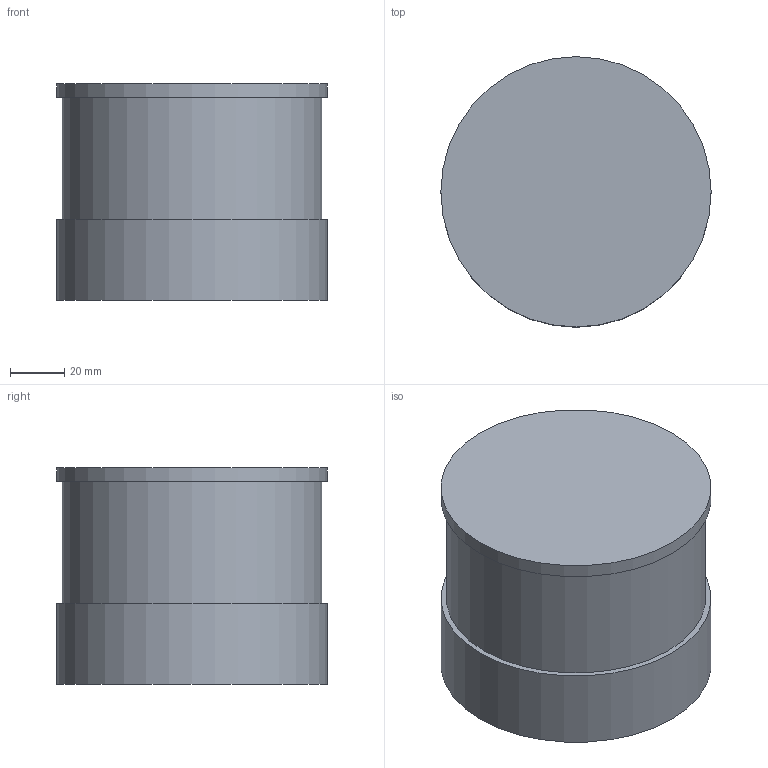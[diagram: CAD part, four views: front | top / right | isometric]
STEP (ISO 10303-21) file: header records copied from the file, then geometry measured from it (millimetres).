
FILE_DESCRIPTION(/* description */ (''),/* implementation_level */ '2;1');
FILE_NAME(/* name */ 'lidar.step',/* time_stamp */ '2026-11-14T21:13:11+01:00',/* author */ ('malgo'),/* organization */ (''),/* preprocessor_version */ 'ST-DEVELOPER v20.1',/* originating_system */ 'Autodesk Inventor 2026',/* authorisation */ '');
FILE_SCHEMA (('AUTOMOTIVE_DESIGN { 1 0 10303 214 3 1 1 }'));
Length unit declared in the file: metre
Products named in the file (1): lidar
Bounding box: 100 x 100 x 80 mm (x, y, z)
Volume: 600609.7 mm3; surface area: 41506.7 mm2
Topology: 1 solids, 1 shells, 7 faces, 9 edges, 6 vertices
Faces by surface type: plane 4, cylinder 3
Full cylindrical faces by diameter (mm): 96 x1, 100 x2
Entity records: 186 total; most frequent: DIRECTION 31, CARTESIAN_POINT 23, ORIENTED_EDGE 18, AXIS2_PLACEMENT_3D 14, EDGE_LOOP 9, EDGE_CURVE 9, FACE_OUTER_BOUND 7, ADVANCED_FACE 7
